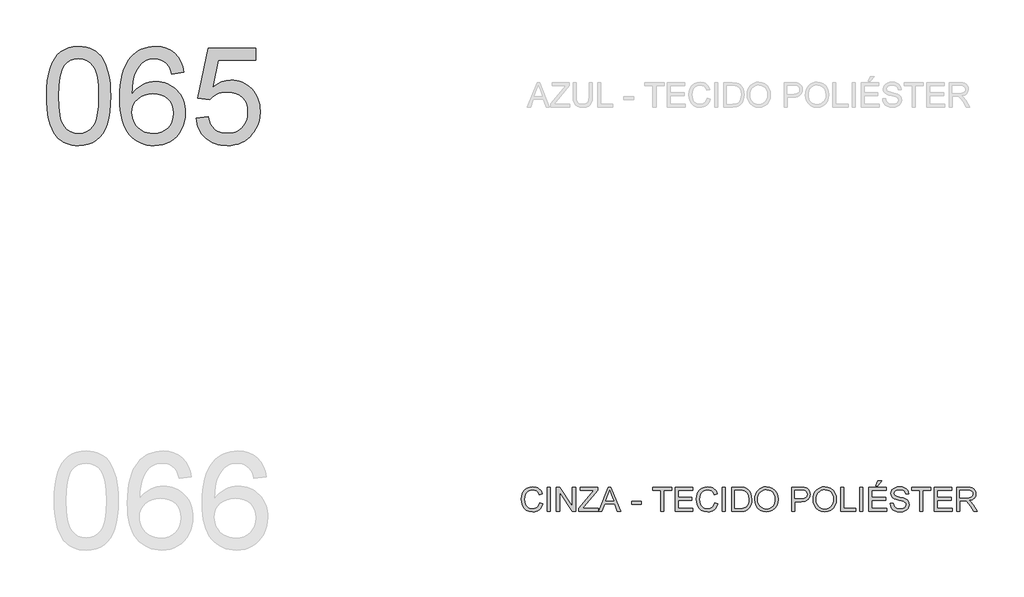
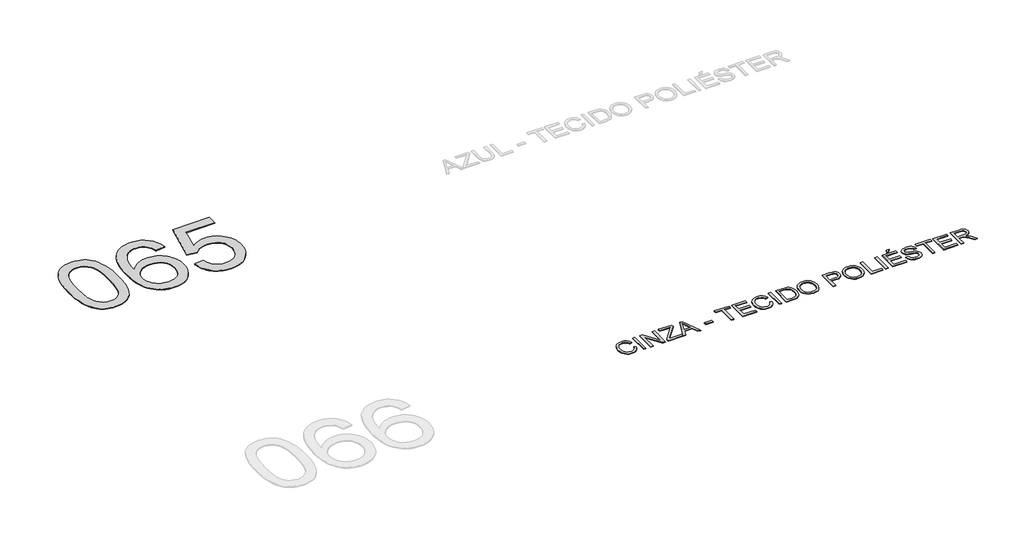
# One storey, part 11 of 39: 2 proxies.
"""IFC4 building model written with IfcOpenShell, lengths in millimetres."""

from ifc_helpers import new_model, si_unit, origin, origin_with_axes, place, context, project, spatial, polyline, outline, extrude, element, save

model = new_model("IFC4")

# Units and contexts
model_context = context("Model", 3, world=origin())
ifc_project = project(units=[si_unit("LENGTHUNIT", "METRE", prefix="MILLI")], contexts=[model_context])

# Site, building, storey
site = spatial("IfcSite", under=ifc_project)
building = spatial("IfcBuilding", under=site)
storey = spatial("IfcBuildingStorey", under=building, Name="Marelli - Linha PROFIT - Planta Baixa", Elevation=0.0)

# Proxies
placement = place(None, origin())
element("IfcBuildingElementProxy", 1, Name="1200mm Arial", ObjectType="1200mm Arial", at=placement, inside=storey, context=model_context, shape_type="SweptSolid", body=[
    extrude(outline(polyline([(-25275.30917, -99395.792664), (-25272.540858, -99294.4319773), (-25264.2359219, -99202.8385576), (-25250.3943618, -99121.0124048), (-25231.0161777, -99048.953519), (-25206.1841431, -98986.073289), (-25175.9810313, -98931.7831035), (-25140.4068423, -98886.0829627), (-25099.4615763, -98848.9728664), (-25053.0072773, -98820.2596767), (-25000.9059898, -98799.7502555), (-24943.1577136, -98787.4446027), (-24879.7624488, -98783.3427185), (-24832.1217304, -98785.7707396), (-24786.9090332, -98793.0548031), (-24744.1243571, -98805.194909), (-24703.7677023, -98822.1910572), (-24666.8139558, -98843.7581391), (-24634.2380052, -98869.6110463), (-24606.0398502, -98899.7497788), (-24582.2194911, -98934.1743365), (-24561.5813111, -98972.7467637), (-24542.929694, -99015.3291046), (-24511.586148, -99112.5235278), (-24499.611589, -99169.6831928), (-24491.0583327, -99235.9479371), (-24485.9263788, -99311.3177609), (-24484.2157275, -99395.792664), (-24486.9564484, -99496.5095573), (-24495.178611, -99587.6431245), (-24508.8822153, -99669.1933658), (-24528.0672614, -99741.1602811), (-24552.706158, -99804.0681023), (-24582.771314, -99858.4410612), (-24618.2627295, -99904.2791578), (-24659.1804044, -99941.5823921), (-24705.6898857, -99970.4887199), (-24757.9567202, -99991.1360968), (-24815.9809078, -100003.524523), (-24879.7624488, -100007.6539984), (-24922.4367602, -100005.8605737), (-24962.7566269, -100000.4802995), (-25000.7220488, -99991.5131759), (-25036.3330259, -99978.9592028), (-25069.5895583, -99962.8183803), (-25100.4916459, -99943.0907083), (-25129.0392887, -99919.7761868), (-25155.2324867, -99892.8748159), (-25183.3754594, -99850.2786794), (-25207.7660357, -99802.0999336), (-25228.4042156, -99748.3385785), (-25245.2899992, -99688.9946142), (-25258.4233864, -99624.0680406), (-25267.8043773, -99553.5588577), (-25273.4329718, -99477.4670655), (-25275.30917, -99395.792664)]), holes=[polyline([(-25124.6247047, -99395.4983584), (-25120.2101208, -99526.4919399), (-25106.966369, -99632.5247279), (-25097.0335551, -99676.1808245), (-25084.8934493, -99713.5967226), (-25070.5460515, -99744.7724225), (-25053.9913617, -99769.7079239), (-25016.614551, -99807.884878), (-24975.1174619, -99835.1541309), (-24929.5000945, -99851.5156826), (-24879.7624488, -99856.9695332), (-24830.024803, -99851.4972885), (-24784.4074356, -99835.0805545), (-24742.9103465, -99807.7193311), (-24705.5335358, -99769.4136183), (-24688.9788461, -99744.418336), (-24674.6314482, -99713.2104465), (-24662.4913424, -99675.7899498), (-24652.5585285, -99632.1568459), (-24639.3147767, -99526.2528166), (-24634.9001928, -99395.4983584), (-24639.1676239, -99267.9720648), (-24651.9699173, -99163.8062779), (-24661.5716374, -99120.4835744), (-24673.3070731, -99083.0009976), (-24687.1762243, -99051.3585475), (-24703.1790911, -99025.5562241), (-24739.9305024, -98985.5122689), (-24781.905838, -98956.9094438), (-24829.105098, -98939.7477487), (-24881.5282823, -98934.0271837), (-24931.0084107, -98939.067167), (-24975.8532259, -98954.187117), (-25016.062728, -98979.3870337), (-25051.6369169, -99014.666917), (-25068.7434297, -99043.2145599), (-25083.5690741, -99077.2068562), (-25096.1138501, -99116.6438061), (-25106.3777578, -99161.5254095), (-25120.062968, -99267.6225769), (-25124.6247047, -99395.4983584)])]), origin_with_axes(), (0.0, 0.0, 1.0), 10.0),
    extrude(outline(polyline([(-23580.1089362, -99103.5472071), (-23730.7934014, -99122.3827652), (-23741.8666495, -99082.0812927), (-23755.0736131, -99047.7027202), (-23770.4142923, -99019.2470479), (-23787.8886871, -98996.7142757), (-23820.2806967, -98969.2886729), (-23856.2411618, -98949.6989567), (-23895.7700822, -98937.9451269), (-23938.8674579, -98934.0271837), (-23974.4048586, -98936.3080521), (-24008.9121898, -98943.1506572), (-24042.3894513, -98954.554999), (-24074.8366433, -98970.5210776), (-24104.4419469, -98996.6315022), (-24131.4536824, -99028.1681863), (-24155.8718498, -99065.1311297), (-24177.6964492, -99107.5203326), (-24195.7686522, -99158.1316981), (-24208.9296306, -99219.7611293), (-24217.1793843, -99292.4086263), (-24220.5179134, -99376.0741891), (-24191.7955266, -99338.2099347), (-24160.0749016, -99305.5512106), (-24125.3560383, -99278.0980167), (-24087.6389367, -99255.8503531), (-24047.9352724, -99238.6610669), (-24007.2567208, -99226.3830053), (-23965.6032819, -99219.0161683), (-23922.9749557, -99216.560556), (-23886.0763916, -99218.2390176), (-23850.575779, -99223.2744024), (-23816.4731181, -99231.6667104), (-23783.7684087, -99243.4159416), (-23752.4616509, -99258.5220961), (-23722.5528447, -99276.9851737), (-23694.0419901, -99298.8051745), (-23666.9290871, -99323.9820986), (-23642.1660303, -99351.81697), (-23620.7047144, -99381.6108131), (-23602.5451394, -99413.3636278), (-23587.6873053, -99447.0754142), (-23576.1312121, -99482.7461721), (-23567.8768599, -99520.3759017), (-23562.9242485, -99559.9646029), (-23561.273378, -99601.5122757), (-23564.3819809, -99656.4462547), (-23573.7077895, -99709.4120649), (-23589.2508038, -99760.4097065), (-23611.0110238, -99809.4391794), (-23638.2158973, -99854.6702707), (-23670.0928722, -99894.2727675), (-23706.6419484, -99928.2466698), (-23747.863126, -99956.5919775), (-23792.8734881, -99978.9316116), (-23840.790118, -99994.8884932), (-23891.6130156, -100004.4626221), (-23945.342181, -100007.6539984), (-23991.3435252, -100005.5386769), (-24035.1697672, -99999.1927125), (-24076.8209068, -99988.6161052), (-24116.2969442, -99973.8088549), (-24153.5978792, -99954.7709616), (-24188.723712, -99931.5024254), (-24221.6744424, -99904.0032463), (-24252.4500706, -99872.2734242), (-24280.2826428, -99835.6875598), (-24304.4042053, -99793.6202536), (-24324.8147583, -99746.0715057), (-24341.5143016, -99693.0413161), (-24354.5028353, -99634.5296848), (-24363.7803594, -99570.5366117), (-24369.3468738, -99501.062097), (-24371.2023786, -99426.1061404), (-24369.1422394, -99342.1784618), (-24362.9618219, -99264.1828803), (-24352.6611261, -99192.1193959), (-24338.2401519, -99125.9880088), (-24319.6988993, -99065.7887188), (-24297.0373684, -99011.521526), (-24270.2555591, -98963.1864303), (-24239.3534716, -98920.7834319), (-24209.3388993, -98888.5707647), (-24176.8319265, -98860.6531198), (-24141.8325532, -98837.0304971), (-24104.3407793, -98817.7028968), (-24064.356605, -98802.6703188), (-24021.8800301, -98791.9327631), (-23976.9110547, -98785.4902296), (-23929.4496788, -98783.3427185), (-23860.0487404, -98788.6586133), (-23797.2328897, -98804.6062978), (-23741.0021268, -98831.1857719), (-23691.3564515, -98868.3970358), (-23649.6386333, -98914.9892904), (-23617.1914413, -98969.7117372), (-23594.0148756, -99032.5643761), (-23580.1089362, -99103.5472071)]), holes=[polyline([(-24220.5179134, -99599.157831), (-24218.3382126, -99632.9202011), (-24211.7991101, -99665.9284131), (-24200.900606, -99698.182467), (-24185.6427003, -99729.6823629), (-24166.7703539, -99758.9473756), (-24145.028528, -99784.4967801), (-24120.4172225, -99806.3305766), (-24092.9364375, -99824.4487648), (-24062.7609168, -99838.676601), (-24030.0654045, -99848.8393411), (-23994.8499005, -99854.9369852), (-23957.1144049, -99856.9695332), (-23904.7372058, -99852.7572843), (-23857.6759016, -99840.1205378), (-23815.9304922, -99819.0592936), (-23779.5009776, -99789.5735517), (-23749.9508563, -99752.8589286), (-23728.8436268, -99710.1110407), (-23716.1792892, -99661.3298882), (-23711.9578433, -99606.5154709), (-23716.1241069, -99553.8439662), (-23728.6228976, -99507.0769676), (-23749.4542156, -99466.214475), (-23778.6180608, -99431.2564884), (-23815.15794, -99403.2514715), (-23858.1173599, -99383.247888), (-23907.4963208, -99371.2457379), (-23963.2948224, -99367.2450212), (-24014.9730456, -99371.2457379), (-24062.5861729, -99383.247888), (-24106.134204, -99403.2514715), (-24145.6171392, -99431.2564884), (-24178.3862279, -99465.7546225), (-24201.7927198, -99505.2375576), (-24215.836615, -99549.7052938), (-24220.5179134, -99599.157831)])]), origin_with_axes(), (0.0, 0.0, 1.0), 10.0),
    extrude(outline(polyline([(-23429.424471, -99668.6139517), (-23278.7400057, -99649.7783935), (-23267.4828167, -99698.2192552), (-23251.0752797, -99740.2405761), (-23229.5173948, -99775.8423562), (-23202.8091619, -99805.0245955), (-23171.0057635, -99827.7505057), (-23134.1623816, -99843.9832988), (-23092.2790165, -99853.7229746), (-23045.355668, -99856.9695332), (-22987.9660768, -99852.4537817), (-22937.3455142, -99838.9065272), (-22893.4939804, -99816.3277698), (-22856.4114753, -99784.7175093), (-22826.9257334, -99745.6392444), (-22805.8644891, -99700.6564734), (-22793.2277426, -99649.7691965), (-22789.0154938, -99592.9774135), (-22792.9610282, -99539.3034304), (-22804.7976314, -99491.5891356), (-22824.5253034, -99449.8345291), (-22852.1440441, -99414.039611), (-22887.7458242, -99385.3264213), (-22931.4226141, -99364.817), (-22983.1744138, -99352.5113473), (-23043.0012232, -99348.4094631), (-23081.2885419, -99350.0465379), (-23116.0993757, -99354.9577626), (-23147.4337246, -99363.143137), (-23175.2915887, -99374.6026611), (-23222.5644251, -99404.6954083), (-23259.9044476, -99442.5872538), (-23410.5889128, -99423.7516957), (-23278.7400057, -98802.1782766), (-22694.837703, -98802.1782766), (-22694.837703, -98952.8627418), (-23156.8974889, -98952.8627418), (-23221.3504145, -99284.8394543), (-23168.1730721, -99246.7268796), (-23113.7081427, -99219.503612), (-23057.9556263, -99203.1696514), (-23000.915523, -99197.7249978), (-22963.4766322, -99199.4126565), (-22927.532262, -99204.4756324), (-22893.0824124, -99212.9139257), (-22860.1270834, -99224.7275363), (-22828.6662751, -99239.9164642), (-22798.6999873, -99258.4807093), (-22770.2282201, -99280.4202718), (-22743.2509736, -99305.7351516), (-22718.6603615, -99333.7033803), (-22697.3484976, -99363.6029895), (-22679.3153821, -99395.4339791), (-22664.5610148, -99429.1963492), (-22653.0853958, -99464.8900998), (-22644.8885251, -99502.5152308), (-22639.9704027, -99542.0717424), (-22638.3310285, -99583.5596344), (-22644.2355346, -99661.6241938), (-22651.6161671, -99698.6147284), (-22661.9490526, -99734.2440996), (-22675.2341912, -99768.5123075), (-22691.4715827, -99801.4193519), (-22710.6612273, -99832.965233), (-22732.8031249, -99863.1499507), (-22762.8039016, -99897.0180869), (-22795.4166405, -99926.3704716), (-22830.6413415, -99951.2071048), (-22868.4780047, -99971.5279865), (-22908.9266301, -99987.3331167), (-22951.9872176, -99998.6224954), (-22997.6597673, -100005.3961227), (-23045.9442792, -100007.6539984), (-23123.7053359, -100001.8506599), (-23159.7646692, -99994.5964869), (-23193.9432059, -99984.4406445), (-23226.2409458, -99971.383133), (-23256.657889, -99955.4239522), (-23285.1940355, -99936.5631021), (-23311.8493853, -99914.8005828), (-23336.1870786, -99890.6422321), (-23357.7702554, -99864.5938875), (-23376.5989157, -99836.6555493), (-23392.6730597, -99806.8272173), (-23405.9926871, -99775.1088915), (-23416.5577982, -99741.500572), (-23429.424471, -99668.6139517)])), origin_with_axes(), (0.0, 0.0, 1.0), 10.0),
])
element("IfcBuildingElementProxy", 2, Name="300mm Arial", ObjectType="300mm Arial", at=placement, inside=storey, context=model_context, shape_type="SweptSolid", body=[
    extrude(outline(polyline([(-19185.6215867, -104423.4390831), (-19147.9504704, -104433.1511677), (-19155.4046793, -104456.5783531), (-19165.3328946, -104477.0486868), (-19177.7351164, -104494.5621691), (-19192.6113446, -104509.1187997), (-19209.6258869, -104520.5622291), (-19228.4430509, -104528.7361071), (-19249.0628367, -104533.640434), (-19271.4852444, -104535.2752096), (-19315.1804283, -104530.3271968), (-19349.8808975, -104515.4831583), (-19376.4787658, -104491.2581289), (-19395.8661469, -104458.1671434), (-19407.7027501, -104419.2636224), (-19411.6482845, -104377.6009865), (-19407.1877153, -104333.6574821), (-19393.8060077, -104295.7104543), (-19372.2021376, -104264.9647166), (-19343.0750806, -104242.6250824), (-19308.5309613, -104229.0226457), (-19270.675904, -104224.4885001), (-19229.371953, -104230.3562179), (-19211.4032168, -104237.6908652), (-19195.2233068, -104247.9593714), (-19181.0989374, -104260.8904235), (-19169.2968231, -104276.2127086), (-19152.6593599, -104314.0309777), (-19190.3304762, -104323.0072984), (-19203.390287, -104295.5357104), (-19221.2325638, -104276.6909552), (-19244.0780357, -104265.7924511), (-19272.1474319, -104262.1596164), (-19304.5026534, -104266.1879242), (-19331.0821276, -104278.2728478), (-19351.251258, -104297.1451941), (-19364.3754481, -104321.5357704), (-19371.5767382, -104349.1085259), (-19373.9771682, -104377.5274101), (-19371.1352798, -104412.3290468), (-19362.6096146, -104442.421794), (-19348.0782757, -104466.6560205), (-19327.2193666, -104483.8820949), (-19302.212588, -104494.1735937), (-19275.2376407, -104497.6040933), (-19243.7929272, -104492.931992), (-19217.5905321, -104478.9156879), (-19197.8076778, -104455.702334), (-19185.6215867, -104423.4390831)])), origin_with_axes(), (0.0, 0.0, 1.0), 10.0),
    extrude(outline(polyline([(-19091.4437959, -104530.5663201), (-19091.4437959, -104229.1973896), (-19053.7726796, -104229.1973896), (-19053.7726796, -104530.5663201), (-19091.4437959, -104530.5663201)])), origin_with_axes(), (0.0, 0.0, 1.0), 10.0),
    extrude(outline(polyline([(-18978.430447, -104530.5663201), (-18978.430447, -104229.1973896), (-18938.1105803, -104229.1973896), (-18780.6570864, -104467.9528045), (-18780.6570864, -104229.1973896), (-18742.9859701, -104229.1973896), (-18742.9859701, -104530.5663201), (-18783.3058368, -104530.5663201), (-18940.7593307, -104291.7373288), (-18940.7593307, -104530.5663201), (-18978.430447, -104530.5663201)])), origin_with_axes(), (0.0, 0.0, 1.0), 10.0),
    extrude(outline(polyline([(-18700.6059642, -104530.5663201), (-18700.6059642, -104491.4972522), (-18546.4634083, -104302.7737887), (-18517.1800014, -104266.8685059), (-18681.7704061, -104266.8685059), (-18681.7704061, -104229.1973896), (-18469.8703769, -104229.1973896), (-18469.8703769, -104266.8685059), (-18638.5810599, -104473.397458), (-18654.473562, -104492.8952038), (-18465.1614873, -104492.8952038), (-18465.1614873, -104530.5663201), (-18700.6059642, -104530.5663201)])), origin_with_axes(), (0.0, 0.0, 1.0), 10.0),
    extrude(outline(polyline([(-18457.8774238, -104530.5663201), (-18337.5800114, -104229.1973896), (-18305.5007014, -104229.1973896), (-18185.203289, -104530.5663201), (-18225.0081209, -104530.5663201), (-18259.515452, -104436.3885293), (-18383.6388372, -104436.3885293), (-18418.0725919, -104530.5663201), (-18457.8774238, -104530.5663201)]), holes=[polyline([(-18369.8064742, -104398.717413), (-18273.2742386, -104398.717413), (-18300.4239299, -104324.6259792), (-18321.5403564, -104266.8685059), (-18340.3023382, -104318.1512561), (-18369.8064742, -104398.717413)])]), origin_with_axes(), (0.0, 0.0, 1.0), 10.0),
    extrude(outline(polyline([(-18050.779208, -104441.0974188), (-18050.779208, -104403.4263025), (-17933.0569695, -104403.4263025), (-17933.0569695, -104441.0974188), (-18050.779208, -104441.0974188)])), origin_with_axes(), (0.0, 0.0, 1.0), 10.0),
    extrude(outline(polyline([(-17692.903603, -104530.5663201), (-17692.903603, -104266.8685059), (-17791.7902834, -104266.8685059), (-17791.7902834, -104229.1973896), (-17556.3458064, -104229.1973896), (-17556.3458064, -104266.8685059), (-17655.2324867, -104266.8685059), (-17655.2324867, -104530.5663201), (-17692.903603, -104530.5663201)])), origin_with_axes(), (0.0, 0.0, 1.0), 10.0),
    extrude(outline(polyline([(-17513.9658006, -104530.5663201), (-17513.9658006, -104229.1973896), (-17297.3568818, -104229.1973896), (-17297.3568818, -104266.8685059), (-17476.2946843, -104266.8685059), (-17476.2946843, -104356.3374072), (-17306.7746609, -104356.3374072), (-17306.7746609, -104394.0085235), (-17476.2946843, -104394.0085235), (-17476.2946843, -104492.8952038), (-17292.6479923, -104492.8952038), (-17292.6479923, -104530.5663201), (-17513.9658006, -104530.5663201)])), origin_with_axes(), (0.0, 0.0, 1.0), 10.0),
    extrude(outline(polyline([(-17024.2412886, -104423.4390831), (-16986.5701723, -104433.1511677), (-16994.0243812, -104456.5783531), (-17003.9525966, -104477.0486868), (-17016.3548183, -104494.5621691), (-17031.2310465, -104509.1187997), (-17048.2455888, -104520.5622291), (-17067.0627529, -104528.7361071), (-17087.6825387, -104533.640434), (-17110.1049463, -104535.2752096), (-17153.8001303, -104530.3271968), (-17188.5005995, -104515.4831583), (-17215.0984677, -104491.2581289), (-17234.4858489, -104458.1671434), (-17246.3224521, -104419.2636224), (-17250.2679865, -104377.6009865), (-17245.8074173, -104333.6574821), (-17232.4257097, -104295.7104543), (-17210.8218395, -104264.9647166), (-17181.6947826, -104242.6250824), (-17147.1506632, -104229.0226457), (-17109.2956059, -104224.4885001), (-17067.9916549, -104230.3562179), (-17050.0229187, -104237.6908652), (-17033.8430087, -104247.9593714), (-17019.7186393, -104260.8904235), (-17007.9165251, -104276.2127086), (-16991.2790618, -104314.0309777), (-17028.9501782, -104323.0072984), (-17042.009989, -104295.5357104), (-17059.8522657, -104276.6909552), (-17082.6977377, -104265.7924511), (-17110.7671339, -104262.1596164), (-17143.1223554, -104266.1879242), (-17169.7018295, -104278.2728478), (-17189.8709599, -104297.1451941), (-17202.9951501, -104321.5357704), (-17210.1964401, -104349.1085259), (-17212.5968701, -104377.5274101), (-17209.7549817, -104412.3290468), (-17201.2293165, -104442.421794), (-17186.6979777, -104466.6560205), (-17165.8390686, -104483.8820949), (-17140.8322899, -104494.1735937), (-17113.8573426, -104497.6040933), (-17082.4126291, -104492.931992), (-17056.210234, -104478.9156879), (-17036.4273797, -104455.702334), (-17024.2412886, -104423.4390831)])), origin_with_axes(), (0.0, 0.0, 1.0), 10.0),
    extrude(outline(polyline([(-16930.0634979, -104530.5663201), (-16930.0634979, -104229.1973896), (-16892.3923815, -104229.1973896), (-16892.3923815, -104530.5663201), (-16930.0634979, -104530.5663201)])), origin_with_axes(), (0.0, 0.0, 1.0), 10.0),
    extrude(outline(polyline([(-16817.0501489, -104530.5663201), (-16817.0501489, -104229.1973896), (-16713.0866971, -104229.1973896), (-16659.3023494, -104233.5383972), (-16635.2796551, -104241.9077126), (-16615.0093572, -104255.0962821), (-16594.1688422, -104278.0521186), (-16579.3248036, -104306.5997614), (-16570.4404535, -104340.1873876), (-16567.4790034, -104378.2631741), (-16569.4839603, -104410.6091985), (-16575.4988309, -104439.0740679), (-16584.6590926, -104463.3082943), (-16596.1002226, -104482.9623899), (-16609.2703981, -104498.477813), (-16623.6177959, -104510.2960221), (-16640.0897122, -104519.0608107), (-16659.6334432, -104525.4159721), (-16708.083502, -104530.5663201), (-16817.0501489, -104530.5663201)]), holes=[polyline([(-16779.3790326, -104492.8952038), (-16712.7188151, -104492.8952038), (-16685.1460596, -104491.5340404), (-16664.2319681, -104487.4505502), (-16648.4498305, -104480.8838566), (-16636.2729365, -104472.0730828), (-16623.1855345, -104455.7667134), (-16613.3538882, -104434.6594839), (-16607.2010618, -104408.6594239), (-16605.1501197, -104377.6745629), (-16609.1692305, -104336.6189322), (-16621.2265629, -104306.3054558), (-16639.0412485, -104285.4833349), (-16660.332419, -104272.9017706), (-16682.0006685, -104268.3768221), (-16713.7488847, -104266.8685059), (-16779.3790326, -104266.8685059), (-16779.3790326, -104492.8952038)])]), origin_with_axes(), (0.0, 0.0, 1.0), 10.0),
    extrude(outline(polyline([(-16529.8078871, -104383.8549804), (-16527.2970925, -104348.5061192), (-16519.7647086, -104317.213157), (-16507.2107355, -104289.9760937), (-16489.6351732, -104266.7949295), (-16468.0910839, -104248.2858666), (-16443.6315297, -104235.0651074), (-16416.2565108, -104227.1326519), (-16385.966027, -104224.4885001), (-16346.4371066, -104229.454907), (-16310.9916764, -104244.3541278), (-16281.5611168, -104268.1376988), (-16260.0768082, -104299.7571563), (-16246.943421, -104337.68579), (-16242.5656253, -104380.3968896), (-16247.1733473, -104423.6782064), (-16260.9965132, -104462.140269), (-16283.271768, -104493.8149087), (-16313.2357565, -104516.733957), (-16348.3776841, -104530.6398965), (-16386.1867562, -104535.2752096), (-16426.3226819, -104530.1524528), (-16461.9704472, -104514.7841825), (-16491.3274304, -104490.5591531), (-16512.5910097, -104458.8661192), (-16525.5036678, -104422.3998164), (-16529.8078871, -104383.8549804)]), holes=[polyline([(-16492.1367708, -104384.2228624), (-16490.2536748, -104409.1974513), (-16484.6043869, -104431.3669401), (-16475.1889071, -104450.7313286), (-16462.0072354, -104467.2906169), (-16445.9836752, -104480.5527628), (-16428.0425302, -104490.0257242), (-16408.1838002, -104495.709501), (-16386.4074854, -104497.6040933), (-16364.25869, -104495.6911069), (-16344.1654353, -104489.9521478), (-16326.1277212, -104480.3872159), (-16310.1455478, -104466.9963113), (-16297.0604451, -104450.0875351), (-16287.7139431, -104429.9689885), (-16282.106042, -104406.6406715), (-16280.2367416, -104380.102584), (-16283.4373149, -104346.7540812), (-16293.039035, -104317.9305269), (-16308.7935814, -104294.358488), (-16330.4526339, -104276.7645316), (-16356.5814526, -104265.8108452), (-16385.7452978, -104262.1596164), (-16406.7651553, -104263.9185522), (-16426.2674996, -104269.1953595), (-16444.2523306, -104277.9900385), (-16460.7196484, -104290.302589), (-16474.4646394, -104306.7262208), (-16484.2824902, -104327.8541437), (-16490.1732006, -104353.6863575), (-16492.1367708, -104384.2228624)])]), origin_with_axes(), (0.0, 0.0, 1.0), 10.0),
    extrude(outline(polyline([(-16073.0456019, -104530.5663201), (-16073.0456019, -104229.1973896), (-15961.3566282, -104229.1973896), (-15916.3278719, -104232.0668692), (-15896.2507121, -104237.4287493), (-15879.7236134, -104246.1567496), (-15866.4154822, -104258.6463433), (-15855.9952247, -104275.2930036), (-15849.2629842, -104294.9287051), (-15847.0189041, -104316.3854225), (-15848.534118, -104334.8852883), (-15853.0797599, -104351.9044291), (-15860.6558298, -104367.4428449), (-15871.2623275, -104381.5005356), (-15885.8235568, -104393.1531978), (-15905.2638209, -104401.476528), (-15929.5831201, -104406.470526), (-15958.7814542, -104408.1351921), (-16035.3744856, -104408.1351921), (-16035.3744856, -104530.5663201), (-16073.0456019, -104530.5663201)]), holes=[polyline([(-16035.3744856, -104370.4640758), (-15956.5741622, -104370.4640758), (-15923.1704771, -104367.005985), (-15901.0975573, -104356.6317127), (-15888.7919046, -104339.9850525), (-15884.6900204, -104317.7097977), (-15887.1088445, -104300.7872259), (-15894.3653168, -104286.5134045), (-15905.5581265, -104275.7712502), (-15919.7859627, -104269.4436799), (-15957.457079, -104266.8685059), (-16035.3744856, -104266.8685059), (-16035.3744856, -104370.4640758)])]), origin_with_axes(), (0.0, 0.0, 1.0), 10.0),
    extrude(outline(polyline([(-15809.3477877, -104383.8549804), (-15806.8369931, -104348.5061192), (-15799.3046093, -104317.213157), (-15786.7506362, -104289.9760937), (-15769.1750739, -104266.7949295), (-15747.6309845, -104248.2858666), (-15723.1714304, -104235.0651074), (-15695.7964114, -104227.1326519), (-15665.5059276, -104224.4885001), (-15625.9770072, -104229.454907), (-15590.531577, -104244.3541278), (-15561.1010174, -104268.1376988), (-15539.6167089, -104299.7571563), (-15526.4833217, -104337.68579), (-15522.1055259, -104380.3968896), (-15526.7132479, -104423.6782064), (-15540.5364139, -104462.140269), (-15562.8116687, -104493.8149087), (-15592.7756572, -104516.733957), (-15627.9175848, -104530.6398965), (-15665.7266568, -104535.2752096), (-15705.8625825, -104530.1524528), (-15741.5103478, -104514.7841825), (-15770.867331, -104490.5591531), (-15792.1309104, -104458.8661192), (-15805.0435684, -104422.3998164), (-15809.3477877, -104383.8549804)]), holes=[polyline([(-15771.6766714, -104384.2228624), (-15769.7935755, -104409.1974513), (-15764.1442876, -104431.3669401), (-15754.7288078, -104450.7313286), (-15741.547136, -104467.2906169), (-15725.5235759, -104480.5527628), (-15707.5824308, -104490.0257242), (-15687.7237009, -104495.709501), (-15665.947386, -104497.6040933), (-15643.7985907, -104495.6911069), (-15623.7053359, -104489.9521478), (-15605.6676219, -104480.3872159), (-15589.6854484, -104466.9963113), (-15576.6003457, -104450.0875351), (-15567.2538438, -104429.9689885), (-15561.6459426, -104406.6406715), (-15559.7766422, -104380.102584), (-15562.9772156, -104346.7540812), (-15572.5789356, -104317.9305269), (-15588.3334821, -104294.358488), (-15609.9925346, -104276.7645316), (-15636.1213533, -104265.8108452), (-15665.2851984, -104262.1596164), (-15686.3050559, -104263.9185522), (-15705.8074002, -104269.1953595), (-15723.7922312, -104277.9900385), (-15740.2595491, -104290.302589), (-15754.0045401, -104306.7262208), (-15763.8223908, -104327.8541437), (-15769.7131013, -104353.6863575), (-15771.6766714, -104384.2228624)])]), origin_with_axes(), (0.0, 0.0, 1.0), 10.0),
    extrude(outline(polyline([(-15470.307741, -104530.5663201), (-15470.307741, -104229.1973896), (-15432.6366247, -104229.1973896), (-15432.6366247, -104492.8952038), (-15281.9521595, -104492.8952038), (-15281.9521595, -104530.5663201), (-15470.307741, -104530.5663201)])), origin_with_axes(), (0.0, 0.0, 1.0), 10.0),
    extrude(outline(polyline([(-15234.8632641, -104530.5663201), (-15234.8632641, -104229.1973896), (-15197.1921478, -104229.1973896), (-15197.1921478, -104530.5663201), (-15234.8632641, -104530.5663201)])), origin_with_axes(), (0.0, 0.0, 1.0), 10.0),
    extrude(outline(polyline([(-15121.8499152, -104530.5663201), (-15121.8499152, -104229.1973896), (-14905.2409964, -104229.1973896), (-14905.2409964, -104266.8685059), (-15084.1787989, -104266.8685059), (-15084.1787989, -104356.3374072), (-14914.6587755, -104356.3374072), (-14914.6587755, -104394.0085235), (-15084.1787989, -104394.0085235), (-15084.1787989, -104492.8952038), (-14900.5321069, -104492.8952038), (-14900.5321069, -104530.5663201), (-15121.8499152, -104530.5663201)])), origin_with_axes(), (0.0, 0.0, 1.0), 10.0),
    extrude(outline(polyline([(-15037.0899035, -104210.3618315), (-15008.8365662, -104153.855157), (-14961.7476709, -104153.855157), (-15008.8365662, -104210.3618315), (-15037.0899035, -104210.3618315)])), origin_with_axes(), (0.0, 0.0, 1.0), 10.0),
    extrude(outline(polyline([(-14858.152101, -104426.9707502), (-14820.4809847, -104426.9707502), (-14816.1583713, -104447.8756446), (-14808.3408789, -104464.6786547), (-14796.1455907, -104478.0143771), (-14778.6895901, -104488.517408), (-14757.3524343, -104495.332422), (-14733.513681, -104497.6040933), (-14712.5260132, -104495.884245), (-14694.1503076, -104490.7247), (-14679.2602838, -104482.5577197), (-14668.7296617, -104471.8155654), (-14662.4664707, -104459.4823216), (-14660.3787404, -104446.5420724), (-14661.9422389, -104433.932917), (-14666.6327343, -104423.0344129), (-14676.160878, -104413.7361954), (-14692.2373212, -104405.9279001), (-14747.0885267, -104391.5437141), (-14783.0949769, -104382.0247675), (-14806.1335869, -104372.9656733), (-14824.8863716, -104360.2921386), (-14838.1761087, -104344.9330653), (-14846.0947686, -104327.2195472), (-14848.7343219, -104307.4826782), (-14845.4693692, -104285.4189555), (-14835.6745111, -104264.845155), (-14819.607265, -104247.4075484), (-14797.5251482, -104234.7524077), (-14771.0192505, -104227.054477), (-14741.6806613, -104224.4885001), (-14709.895657, -104227.1740386), (-14682.0837781, -104235.2306543), (-14659.2383062, -104248.4928003), (-14642.3525226, -104266.7949295), (-14631.6655507, -104288.9966079), (-14627.4165136, -104313.9574013), (-14665.0876299, -104313.9574013), (-14672.0038115, -104291.4798114), (-14686.4247857, -104275.2562154), (-14708.9575579, -104265.4337661), (-14740.2091334, -104262.1596164), (-14772.1964728, -104265.3969779), (-14794.1406339, -104275.1090626), (-14806.8325627, -104289.4012781), (-14811.0632056, -104306.3790322), (-14808.0649674, -104320.8551887), (-14799.0702526, -104332.4986539), (-14777.8066733, -104342.9097143), (-14737.560383, -104353.541504), (-14696.0265057, -104363.6398648), (-14670.9001655, -104372.4506385), (-14649.425054, -104386.1174547), (-14634.4430597, -104402.9848441), (-14625.641483, -104422.868866), (-14622.7076241, -104445.5855792), (-14626.0829414, -104468.8081301), (-14636.2088933, -104490.6511236), (-14652.6716126, -104509.4498935), (-14675.057232, -104523.539774), (-14701.976997, -104532.3413507), (-14732.0421531, -104535.2752096), (-14768.9499142, -104532.1114244), (-14799.32777, -104522.620069), (-14823.5252082, -104506.764355), (-14841.8917168, -104484.5074943), (-14853.6823348, -104457.3945912), (-14858.152101, -104426.9707502)])), origin_with_axes(), (0.0, 0.0, 1.0), 10.0),
    extrude(outline(polyline([(-14490.858717, -104530.5663201), (-14490.858717, -104266.8685059), (-14589.7453973, -104266.8685059), (-14589.7453973, -104229.1973896), (-14354.3009204, -104229.1973896), (-14354.3009204, -104266.8685059), (-14453.1876007, -104266.8685059), (-14453.1876007, -104530.5663201), (-14490.858717, -104530.5663201)])), origin_with_axes(), (0.0, 0.0, 1.0), 10.0),
    extrude(outline(polyline([(-14311.9209146, -104530.5663201), (-14311.9209146, -104229.1973896), (-14095.3119958, -104229.1973896), (-14095.3119958, -104266.8685059), (-14274.2497983, -104266.8685059), (-14274.2497983, -104356.3374072), (-14104.7297749, -104356.3374072), (-14104.7297749, -104394.0085235), (-14274.2497983, -104394.0085235), (-14274.2497983, -104492.8952038), (-14090.6031063, -104492.8952038), (-14090.6031063, -104530.5663201), (-14311.9209146, -104530.5663201)])), origin_with_axes(), (0.0, 0.0, 1.0), 10.0),
    extrude(outline(polyline([(-14034.0964318, -104530.5663201), (-14034.0964318, -104229.1973896), (-13904.2340875, -104229.1973896), (-13869.3312832, -104231.2299376), (-13843.9382285, -104237.3275817), (-13825.3785819, -104248.5847708), (-13810.9760017, -104266.0959537), (-13801.7329666, -104287.8101885), (-13798.6519549, -104311.6765329), (-13803.7563176, -104341.3646099), (-13819.0694056, -104365.9759154), (-13830.6691848, -104376.0052983), (-13845.0510715, -104384.0205273), (-13882.1611678, -104394.0085235), (-13860.7504357, -104410.1217548), (-13830.2162301, -104448.8965171), (-13779.9635496, -104530.5663201), (-13823.741507, -104530.5663201), (-13862.9577277, -104468.0999573), (-13891.2846413, -104426.750021), (-13911.1870572, -104407.2154871), (-13929.1029104, -104400.0417882), (-13950.9551009, -104398.717413), (-13996.4253155, -104398.717413), (-13996.4253155, -104530.5663201), (-14034.0964318, -104530.5663201)]), holes=[polyline([(-13996.4253155, -104361.0462967), (-13912.1067622, -104361.0462967), (-13887.8909299, -104359.7127245), (-13869.101357, -104355.7120078), (-13854.9562943, -104348.7774322), (-13844.6739925, -104338.6422832), (-13838.4108015, -104326.3826157), (-13836.3230712, -104313.0744845), (-13840.3053938, -104294.6987789), (-13852.2523616, -104279.8915286), (-13872.8077681, -104270.1242616), (-13902.6154067, -104266.8685059), (-13996.4253155, -104266.8685059), (-13996.4253155, -104361.0462967)])]), origin_with_axes(), (0.0, 0.0, 1.0), 10.0),
])

save(model, "model.ifc")
